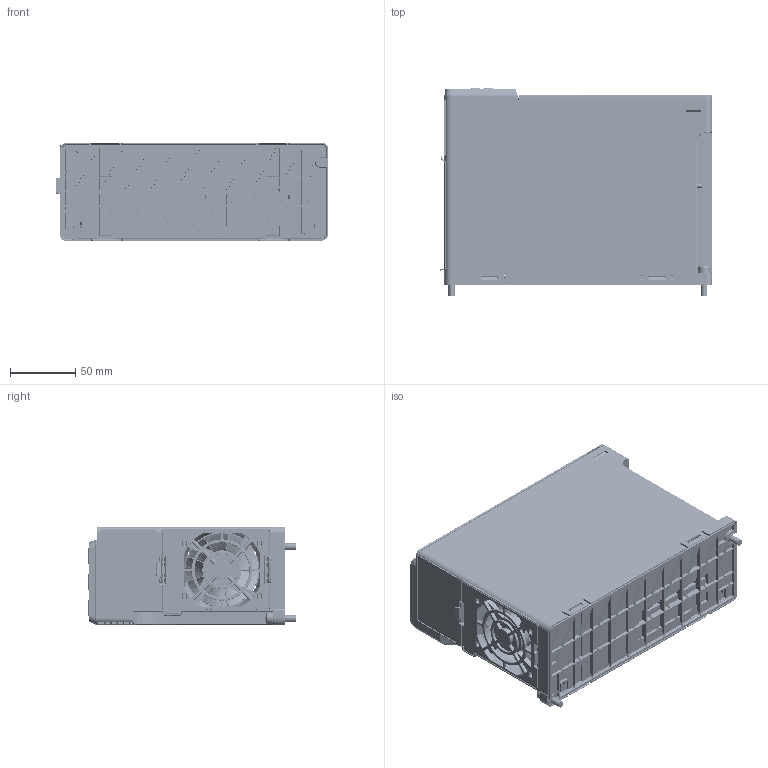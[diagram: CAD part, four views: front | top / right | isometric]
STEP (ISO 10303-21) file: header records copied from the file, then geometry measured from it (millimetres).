
FILE_DESCRIPTION(/* description */ (''),/* implementation_level */ '2;1');
FILE_NAME(/* name */ 'Veda VF-11 T4 C2.stp',/* time_stamp */ '2025-10-18T11:07:47+04:00',/* author */ ('Александр (огранич)'),/* organization */ (''),/* preprocessor_version */ 'ST-DEVELOPER v19.2',/* originating_system */ 'Autodesk Inventor 2024',/* authorisation */ '');
FILE_SCHEMA (('AUTOMOTIVE_DESIGN { 1 0 10303 214 3 1 1 }'));
Products named in the file (112): 00-AC01-T3-004G_ASM_ASM_ASM; 00-AC01-T3-004G_ASM_ASM_1_ASM; 00-AC01-T3-004G_ASM_4_ASM_1_ASM; AC01-T3-004G-D_ASM_3_ASM_1_ASM; AC01-T3-004G-MAIN_PCB_ASM_5_ASM_ASM; AC01-T3-004G-MAIN_PCB_DEVICE_4__ASM; AC01-T3-004G-MAIN_PCB_DEVICE_11; AC01-T3-004G-MAIN_PCB_DEVICE_12; AC01-T3-004G-MAIN_PCB_DEVICE_13; AC01-T3-004G-MAIN_PCB_DEVICE_16; AC01-T3-004G-MAIN_PCB_DEVICE_17; ELT-TB1100-01-8P_5_1; F06025N68D024_SM085-1390010006__ASM; F06025N68D024_SM085-139001000_1; F06025N68D024_SM085-139001000_2; F06025N68D024_SM085-139001000_3; ELT-SNBM-1_25-4_ASM_5_ASM_1_ASM; ELT-SNBM-1_25-4_5_1; AC01-T3-004G-MAIN_PCB-S2_ASM_3__ASM; MAIN_PCB_DEVICE-S2_3_ASM_1_ASM; MAIN_PCB_DEVICE-S2_3_9_1; MAIN_PCB_DEVICE-S2_3_10_1; MAIN_PCB_DEVICE-S2_3_11_1; MAIN_PCB_DEVICE-S2_3_12_1; MAIN_PCB_DEVICE-S2_3_15_1; RJ45-180D_8_1; EU1_5-XX-5_08-03B_0420_8_1; K200-EM002-1003G0NR2_1_5_1; K200-WF002-100300N01_1_5_1; AC01-T3-004G-P005_15_ASM_1_ASM; AC01-T3-004G-P005_15_1_1; AC01-T3-004G-P005_15_3_1; AC01-T3-004G-P005_15_4_1; AC01-T3-004G-P005_15_5_1; AC01-T3-004G-P005_15_6_1; AC01-T3-004G-P005_15_7_1; AC01-T3-004G-P005_15_9_1; AC01-T3-004G-P005_15_10_1; AC01-T3-004G-P005_15_11_1; AC01-T3-004G-P005_15_12_1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
Assembly tree (121 placements, depth 7):
  00-AC01-T3-004G_ASM_ASM_ASM
    00-AC01-T3-004G_ASM_ASM_1_ASM
      00-AC01-T3-004G_ASM_4_ASM_1_ASM
        AC01-T3-004G-D_ASM_3_ASM_1_ASM
          AC01-T3-004G-MAIN_PCB_ASM_5_ASM_ASM
            AC01-T3-004G-MAIN_PCB_DEVICE_4__ASM
              AC01-T3-004G-MAIN_PCB_DEVICE_11
              AC01-T3-004G-MAIN_PCB_DEVICE_12
              AC01-T3-004G-MAIN_PCB_DEVICE_13
              AC01-T3-004G-MAIN_PCB_DEVICE_16
              AC01-T3-004G-MAIN_PCB_DEVICE_17
            ELT-TB1100-01-8P_5_1
            RJ45-180D_8_1
            K200-EM002-1003G0NR2_1_5_1
            K200-WF002-100300N01_1_5_1
          F06025N68D024_SM085-1390010006__ASM
            F06025N68D024_SM085-139001000_1
            F06025N68D024_SM085-139001000_2
            F06025N68D024_SM085-139001000_3
          ELT-SNBM-1_25-4_ASM_5_ASM_1_ASM  x2
            ELT-SNBM-1_25-4_5_1
          AC01-T3-004G-MAIN_PCB-S2_ASM_3__ASM
            MAIN_PCB_DEVICE-S2_3_ASM_1_ASM
              MAIN_PCB_DEVICE-S2_3_9_1
              MAIN_PCB_DEVICE-S2_3_10_1
              MAIN_PCB_DEVICE-S2_3_11_1
              MAIN_PCB_DEVICE-S2_3_12_1
              MAIN_PCB_DEVICE-S2_3_15_1
            RJ45-180D_8_1
            EU1_5-XX-5_08-03B_0420_8_1
            K200-EM002-1003G0NR2_1_5_1
            K200-WF002-100300N01_1_5_1
          AC01-T3-004G-P005_15_ASM_1_ASM
            AC01-T3-004G-P005_15_1_1
            AC01-T3-004G-P005_15_3_1
            AC01-T3-004G-P005_15_4_1
            AC01-T3-004G-P005_15_5_1
            AC01-T3-004G-P005_15_6_1
            AC01-T3-004G-P005_15_7_1
            AC01-T3-004G-P005_15_9_1
            AC01-T3-004G-P005_15_10_1
            AC01-T3-004G-P005_15_11_1
            AC01-T3-004G-P005_15_12_1
            AC01-T3-004G-P005_15_13_1
            AC01-T3-004G-P005_15_14_1
        AC01-T3-004G-VEDA-P_ASM_21_ASM__ASM
          AC01-T3-004G-VEDA-P006_ASM_22_A_ASM
            AC01-T3-004G-VEDA-P001_23_1
            AC01-S2-R75G-P003_54_1
          AC01-T3-004G-VEDA-P002_20_1
          AC01-T3-004G-VEDA-P003_18_1_ASM
            AC01-T3-004G-VEDA-P003_18_1_1
            AC01-T3-004G-VEDA-P003_18_1_2
            AC01-T3-004G-VEDA-P003_18_1_3
            AC01-T3-004G-VEDA-P003_18_1_4
            AC01-T3-004G-VEDA-P003_18_1_5
            AC01-T3-004G-VEDA-P003_18_1_6
            AC01-T3-004G-VEDA-P003_18_1_7
            AC01-T3-004G-VEDA-P003_18_1_8
            AC01-T3-004G-VEDA-P003_18_1_9
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Bounding box: 208.65 x 159.3 x 75.6 mm (x, y, z)
Volume: 305507.8 mm3; surface area: 397205.9 mm2
Topology: 103 solids, 103 shells, 11604 faces, 32807 edges, 23687 vertices
Faces by surface type: plane 8237, cylinder 1366, cone 1101, bspline 707, torus 174, sphere 19
Full cylindrical faces by diameter (mm): 0.5 x16, 0.7 x8, 0.8 x6, 1.3 x6, 2 x4, 2.2 x14, 2.4 x2, 3 x84, 3.15 x14, 3.4 x8, 4 x34, 4.4 x8, 5 x3, 5.2 x2, 5.6 x1, 6.78 x6, 7 x6, 8.75 x2, 9 x10, 10 x2, 25 x1, 30 x1, 58 x1
Entity records: 445397 total; most frequent: CARTESIAN_POINT 160292, ORIENTED_EDGE 58626, DIRECTION 54057, EDGE_CURVE 29313, LINE 22081, VECTOR 22081, VERTEX_POINT 19296, AXIS2_PLACEMENT_3D 15988
